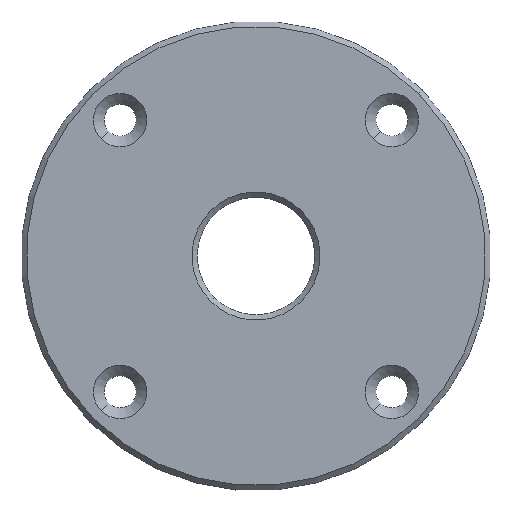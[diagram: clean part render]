
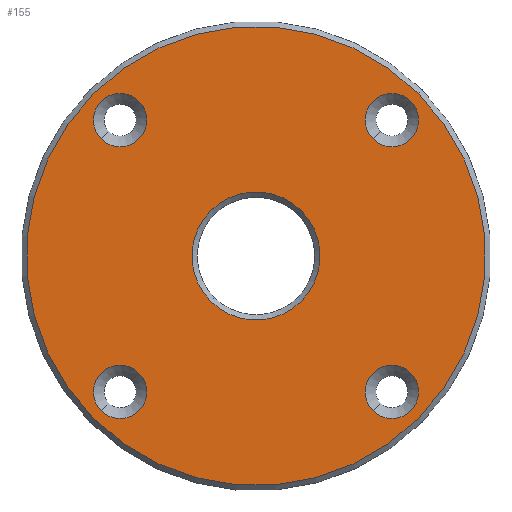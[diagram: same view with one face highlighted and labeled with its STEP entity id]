
A CAD part, left-side view. The second image highlights one B-rep face of the part: STEP entity #155.
In plain terms, the highlighted planar face has unit normal (-1, 0, 0).
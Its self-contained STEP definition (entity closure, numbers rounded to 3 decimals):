
#30=CARTESIAN_POINT('',(-67.5,4.168,-4.168));
#31=DIRECTION('',(0.,0.707,-0.707));
#32=DIRECTION('',(-1.,0.,0.));
#33=AXIS2_PLACEMENT_3D('',#30,#32,#31);
#34=PLANE('',#33);
#35=CARTESIAN_POINT('',(-67.5,-15.203,15.203));
#36=VERTEX_POINT('',#35);
#37=CARTESIAN_POINT('',(-67.5,15.203,-15.203));
#38=VERTEX_POINT('',#37);
#39=CARTESIAN_POINT('',(-67.5,0.,0.));
#40=DIRECTION('',(0.,-0.707,0.707));
#41=DIRECTION('',(-1.,0.,0.));
#42=AXIS2_PLACEMENT_3D('',#39,#41,#40);
#43=CIRCLE('',#42,21.5);
#44=EDGE_CURVE('',#36,#38,#43,.T.);
#45=ORIENTED_EDGE('E1',*,*,#44,.T.);
#46=CARTESIAN_POINT('',(-67.5,0.,0.));
#47=DIRECTION('',(0.,0.707,-0.707));
#48=DIRECTION('',(-1.,0.,0.));
#49=AXIS2_PLACEMENT_3D('',#46,#48,#47);
#50=CIRCLE('',#49,21.5);
#51=EDGE_CURVE('',#38,#36,#50,.T.);
#52=ORIENTED_EDGE('E65',*,*,#51,.T.);
#53=EDGE_LOOP('',(#45,#52));
#54=FACE_OUTER_BOUND('',#53,.T.);
#55=CARTESIAN_POINT('',(-67.5,10.96,-10.96));
#56=VERTEX_POINT('',#55);
#57=CARTESIAN_POINT('',(-67.5,14.496,-14.496));
#58=VERTEX_POINT('',#57);
#59=CARTESIAN_POINT('',(-67.5,12.728,-12.728));
#60=DIRECTION('',(0.,-0.707,0.707));
#61=DIRECTION('',(1.,0.,0.));
#62=AXIS2_PLACEMENT_3D('',#59,#61,#60);
#63=CIRCLE('',#62,2.5);
#64=EDGE_CURVE('',#56,#58,#63,.T.);
#65=ORIENTED_EDGE('E2',*,*,#64,.T.);
#66=CARTESIAN_POINT('',(-67.5,12.728,-12.728));
#67=DIRECTION('',(0.,0.707,-0.707));
#68=DIRECTION('',(1.,0.,0.));
#69=AXIS2_PLACEMENT_3D('',#66,#68,#67);
#70=CIRCLE('',#69,2.5);
#71=EDGE_CURVE('',#58,#56,#70,.T.);
#72=ORIENTED_EDGE('E70',*,*,#71,.T.);
#73=EDGE_LOOP('',(#65,#72));
#74=FACE_BOUND('',#73,.T.);
#75=CARTESIAN_POINT('',(-67.5,-14.496,-10.96));
#76=VERTEX_POINT('',#75);
#77=CARTESIAN_POINT('',(-67.5,-10.96,-14.496));
#78=VERTEX_POINT('',#77);
#79=CARTESIAN_POINT('',(-67.5,-12.728,-12.728));
#80=DIRECTION('',(0.,-0.707,0.707));
#81=DIRECTION('',(1.,0.,0.));
#82=AXIS2_PLACEMENT_3D('',#79,#81,#80);
#83=CIRCLE('',#82,2.5);
#84=EDGE_CURVE('',#76,#78,#83,.T.);
#85=ORIENTED_EDGE('E3',*,*,#84,.T.);
#86=CARTESIAN_POINT('',(-67.5,-12.728,-12.728));
#87=DIRECTION('',(0.,0.707,-0.707));
#88=DIRECTION('',(1.,0.,0.));
#89=AXIS2_PLACEMENT_3D('',#86,#88,#87);
#90=CIRCLE('',#89,2.5);
#91=EDGE_CURVE('',#78,#76,#90,.T.);
#92=ORIENTED_EDGE('E69',*,*,#91,.T.);
#93=EDGE_LOOP('',(#85,#92));
#94=FACE_BOUND('',#93,.T.);
#95=CARTESIAN_POINT('',(-67.5,-14.496,14.496));
#96=VERTEX_POINT('',#95);
#97=CARTESIAN_POINT('',(-67.5,-10.96,10.96));
#98=VERTEX_POINT('',#97);
#99=CARTESIAN_POINT('',(-67.5,-12.728,12.728));
#100=DIRECTION('',(0.,-0.707,0.707));
#101=DIRECTION('',(1.,0.,0.));
#102=AXIS2_PLACEMENT_3D('',#99,#101,#100);
#103=CIRCLE('',#102,2.5);
#104=EDGE_CURVE('',#96,#98,#103,.T.);
#105=ORIENTED_EDGE('E4',*,*,#104,.T.);
#106=CARTESIAN_POINT('',(-67.5,-12.728,12.728));
#107=DIRECTION('',(0.,0.707,-0.707));
#108=DIRECTION('',(1.,0.,0.));
#109=AXIS2_PLACEMENT_3D('',#106,#108,#107);
#110=CIRCLE('',#109,2.5);
#111=EDGE_CURVE('',#98,#96,#110,.T.);
#112=ORIENTED_EDGE('E68',*,*,#111,.T.);
#113=EDGE_LOOP('',(#105,#112));
#114=FACE_BOUND('',#113,.T.);
#115=CARTESIAN_POINT('',(-67.5,10.96,14.496));
#116=VERTEX_POINT('',#115);
#117=CARTESIAN_POINT('',(-67.5,14.496,10.96));
#118=VERTEX_POINT('',#117);
#119=CARTESIAN_POINT('',(-67.5,12.728,12.728));
#120=DIRECTION('',(0.,-0.707,0.707));
#121=DIRECTION('',(1.,0.,0.));
#122=AXIS2_PLACEMENT_3D('',#119,#121,#120);
#123=CIRCLE('',#122,2.5);
#124=EDGE_CURVE('',#116,#118,#123,.T.);
#125=ORIENTED_EDGE('E5',*,*,#124,.T.);
#126=CARTESIAN_POINT('',(-67.5,12.728,12.728));
#127=DIRECTION('',(0.,0.707,-0.707));
#128=DIRECTION('',(1.,0.,0.));
#129=AXIS2_PLACEMENT_3D('',#126,#128,#127);
#130=CIRCLE('',#129,2.5);
#131=EDGE_CURVE('',#118,#116,#130,.T.);
#132=ORIENTED_EDGE('E67',*,*,#131,.T.);
#133=EDGE_LOOP('',(#125,#132));
#134=FACE_BOUND('',#133,.T.);
#135=CARTESIAN_POINT('',(-67.5,-4.243,4.243));
#136=VERTEX_POINT('',#135);
#137=CARTESIAN_POINT('',(-67.5,4.243,-4.243));
#138=VERTEX_POINT('',#137);
#139=CARTESIAN_POINT('',(-67.5,0.,0.));
#140=DIRECTION('',(0.,-0.707,0.707));
#141=DIRECTION('',(1.,0.,0.));
#142=AXIS2_PLACEMENT_3D('',#139,#141,#140);
#143=CIRCLE('',#142,6.);
#144=EDGE_CURVE('',#136,#138,#143,.T.);
#145=ORIENTED_EDGE('E6',*,*,#144,.T.);
#146=CARTESIAN_POINT('',(-67.5,0.,0.));
#147=DIRECTION('',(0.,0.707,-0.707));
#148=DIRECTION('',(1.,0.,0.));
#149=AXIS2_PLACEMENT_3D('',#146,#148,#147);
#150=CIRCLE('',#149,6.);
#151=EDGE_CURVE('',#138,#136,#150,.T.);
#152=ORIENTED_EDGE('E66',*,*,#151,.T.);
#153=EDGE_LOOP('',(#145,#152));
#154=FACE_BOUND('',#153,.T.);
#155=ADVANCED_FACE('F1',(#54,#74,#94,#114,#134,#154),#34,.T.);
